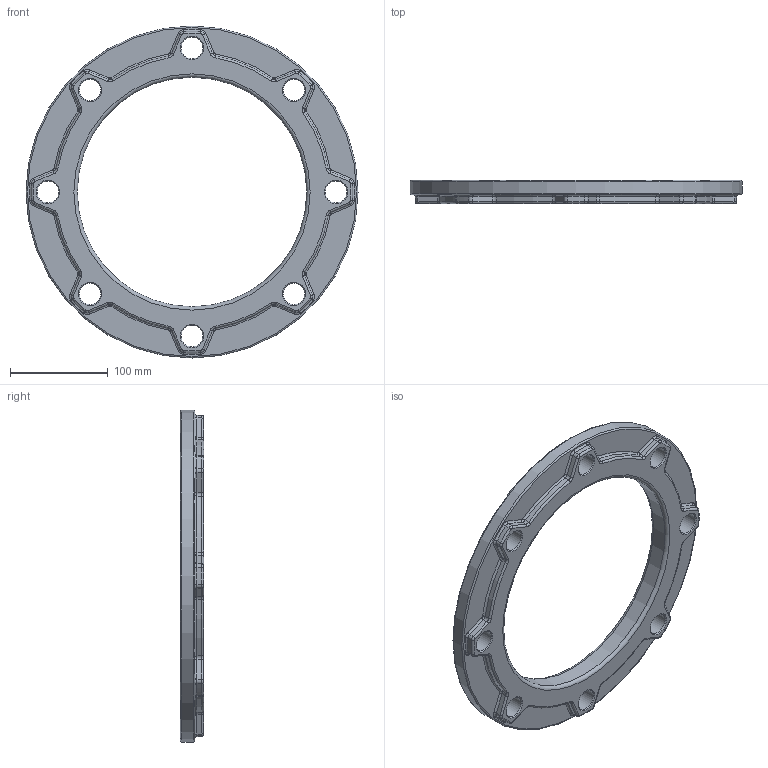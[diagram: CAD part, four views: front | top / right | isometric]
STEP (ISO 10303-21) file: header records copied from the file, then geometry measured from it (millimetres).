
FILE_DESCRIPTION(/* description */ ('Unknown'),/* implementation_level */ '2;1');
FILE_NAME(/* name */ 'FA200B',/* time_stamp */ '2022-07-20T14:18:00+02:00',/* author */ ('Unknown'),/* organization */ ('Unknown'),/* preprocessor_version */ 'ST-DEVELOPER v18.102',/* originating_system */ 'Solid Edge',/* authorisation */ 'Unknown');
FILE_SCHEMA (('AUTOMOTIVE_DESIGN {1 0 10303 214 3 1 1}'));
Length unit declared in the file: millimetre
Products named in the file (1): FA200B
Bounding box: 340 x 24 x 340 mm (x, y, z)
Volume: 862748.7 mm3; surface area: 139637.4 mm2
Topology: 1 solids, 1 shells, 225 faces, 542 edges, 320 vertices
Faces by surface type: torus 100, cylinder 90, plane 19, cone 16
Full cylindrical faces by diameter (mm): 22 x8, 235 x1, 340 x1
Entity records: 6304 total; most frequent: DIRECTION 1300, CARTESIAN_POINT 1010, ORIENTED_EDGE 976, AXIS2_PLACEMENT_3D 586, EDGE_CURVE 488, CIRCLE 360, VERTEX_POINT 296, EDGE_LOOP 274
